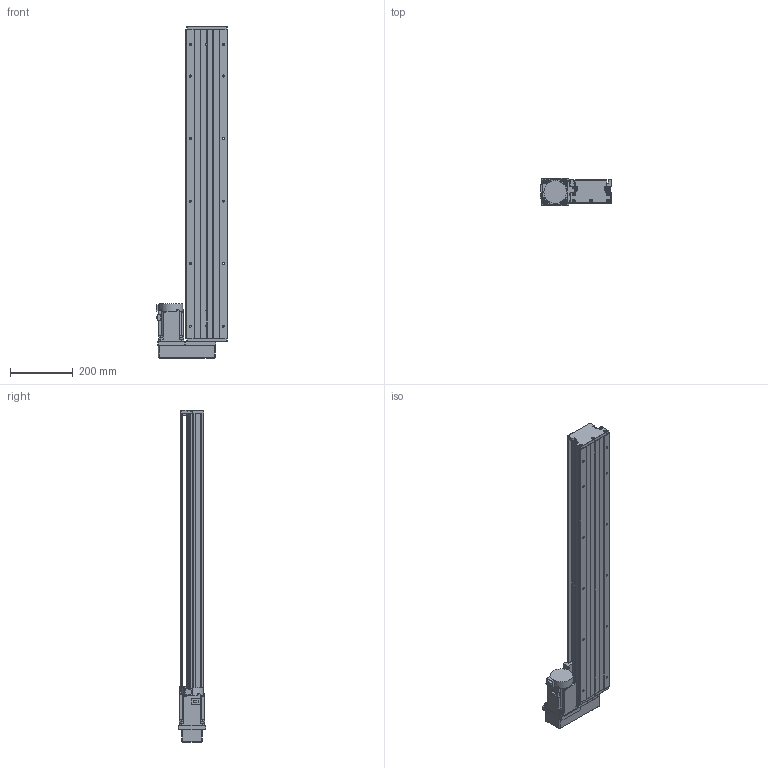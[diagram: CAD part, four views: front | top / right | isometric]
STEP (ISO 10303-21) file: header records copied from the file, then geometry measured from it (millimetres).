
FILE_DESCRIPTION (( 'STEP AP203' ), '1' );
FILE_NAME ('KTH130-850-BL-M75-C4.step', '2023-06-30T04:26:56', ( '微软用户' ), ( '微软中国' ), 'SwSTEP 2.0', 'SolidWorks 2020', '' );
FILE_SCHEMA (( 'CONFIG_CONTROL_DESIGN' ));
Length unit declared in the file: millimetre
Products named in the file (18): GB1155-6X6; GBT77-2000 M3×3; GBT70.1 M5℅16; す晦芛蹟隊 M3℅5; GBT 70.2-M3¡Á5_M3¡Á6; GBT 70.3-M3℅8; GTH14-001_850; CTHA60-017; hg-kn73j_-s100; KTH130-002_KTH130-002; EE_SX911P_R; CTHA86-015-3_CTHA86-015-4; KTH130-004; CTHA60-016; CTHA86-035; KTH130-005; GBT 70.1-M3℅5; KTH130-850-BL-M75-C4
Assembly tree (49 placements, depth 2):
  KTH130-850-BL-M75-C4
    GTH14-001_850
    KTH130-002_KTH130-002
    KTH130-004
    KTH130-005
    GB1155-6X6  x2
    GBT70.1 M5℅16  x10
    GBT 70.2-M3¡Á5_M3¡Á6  x4
    CTHA60-017  x3
    EE_SX911P_R  x3
    CTHA60-016  x2
    GBT 70.1-M3℅5  x6
    GBT77-2000 M3×3  x6
    す晦芛蹟隊 M3℅5  x2
    GBT 70.3-M3℅8  x4
    hg-kn73j_-s100
    CTHA86-015-3_CTHA86-015-4
    CTHA86-035
Bounding box: 230.3 x 87 x 1062 mm (x, y, z)
Volume: 6743396 mm3; surface area: 969027.8 mm2
Topology: 52 solids, 52 shells, 2202 faces, 5340 edges, 3343 vertices
Faces by surface type: plane 1210, cylinder 638, cone 238, torus 100, sphere 16
Entity records: 40253 total; most frequent: CARTESIAN_POINT 6772, DIRECTION 6637, ORIENTED_EDGE 6184, EDGE_CURVE 3092, AXIS2_PLACEMENT_3D 2326, VECTOR 1985, LINE 1985, VERTEX_POINT 1977
